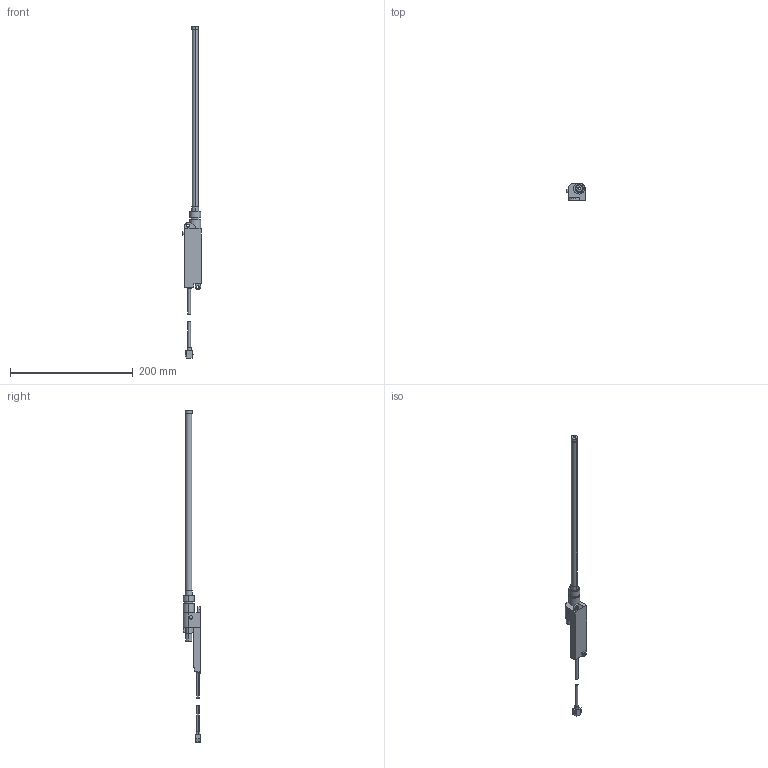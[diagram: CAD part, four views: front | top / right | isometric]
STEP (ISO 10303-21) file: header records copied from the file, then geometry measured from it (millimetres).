
FILE_DESCRIPTION (( 'STEP AP203' ), '1' );
FILE_NAME ('ER-VS01(+ER-VAK30).STEP', '2005-10-26T06:11:46', ( '' ), ( '' ), 'SwSTEP 2.0', 'SolidWorks 2004073', '' );
FILE_SCHEMA (( 'CONFIG_CONTROL_DESIGN' ));
Length unit declared in the file: millimetre
Products named in the file (4): ER-VS01(+ER-VAK30); ER-VS01_蹬怮椔; ER-VAK30_蹬怮椔; ER-VAJK_蹬怮椔
Assembly tree (3 placements, depth 2):
  ER-VS01(+ER-VAK30)
    ER-VS01_蹬怮椔
    ER-VAK30_蹬怮椔
    ER-VAJK_蹬怮椔
Bounding box: 29.8 x 28.6 x 540 mm (x, y, z)
Volume: 71162.2 mm3; surface area: 31417.8 mm2
Topology: 4 solids, 4 shells, 163 faces, 397 edges, 263 vertices
Faces by surface type: plane 94, cylinder 69
Entity records: 5241 total; most frequent: DIRECTION 873, CARTESIAN_POINT 829, ORIENTED_EDGE 794, EDGE_CURVE 397, AXIS2_PLACEMENT_3D 307, VERTEX_POINT 263, VECTOR 259, LINE 259
